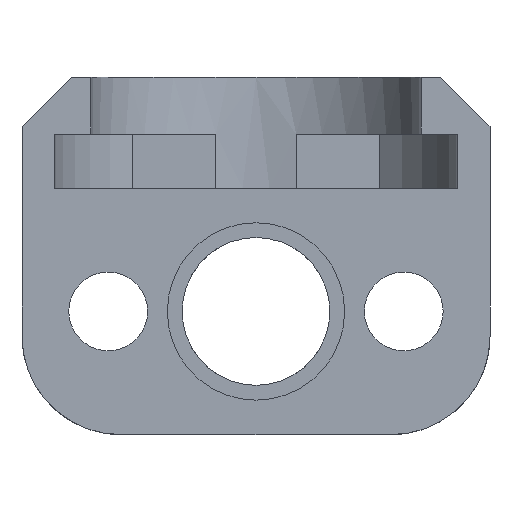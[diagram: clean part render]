
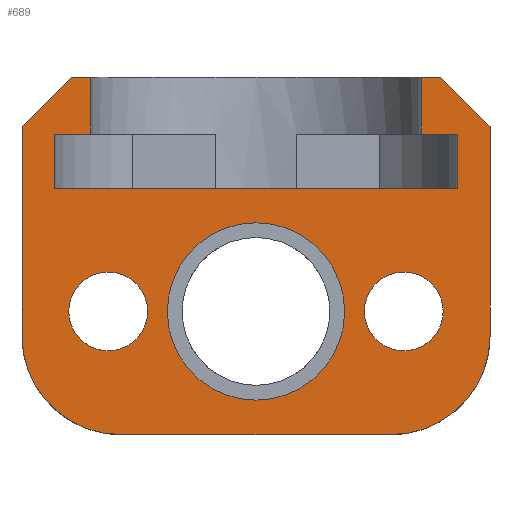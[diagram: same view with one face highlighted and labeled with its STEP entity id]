
A CAD part, front view. The second image highlights one B-rep face of the part: STEP entity #689.
In plain terms, the highlighted planar face has unit normal (0, -1, 0).
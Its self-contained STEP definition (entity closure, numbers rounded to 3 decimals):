
#24=FACE_BOUND('',#123,.T.);
#25=FACE_BOUND('',#124,.T.);
#26=FACE_BOUND('',#125,.T.);
#54=CIRCLE('',#748,4.);
#55=CIRCLE('',#751,4.);
#56=CIRCLE('',#752,1.6);
#57=CIRCLE('',#753,1.6);
#58=CIRCLE('',#754,3.6);
#86=FACE_OUTER_BOUND('',#122,.T.);
#122=EDGE_LOOP('',(#479,#480,#481,#482,#483,#484,#485,#486,#487,#488,#489,
#490,#491,#492,#493,#494));
#123=EDGE_LOOP('',(#495));
#124=EDGE_LOOP('',(#496));
#125=EDGE_LOOP('',(#497));
#160=LINE('',#1030,#220);
#168=LINE('',#1070,#228);
#169=LINE('',#1072,#229);
#170=LINE('',#1074,#230);
#171=LINE('',#1076,#231);
#172=LINE('',#1078,#232);
#173=LINE('',#1080,#233);
#174=LINE('',#1082,#234);
#175=LINE('',#1084,#235);
#176=LINE('',#1086,#236);
#177=LINE('',#1088,#237);
#178=LINE('',#1090,#238);
#179=LINE('',#1092,#239);
#180=LINE('',#1093,#240);
#220=VECTOR('',#816,10.);
#228=VECTOR('',#856,10.);
#229=VECTOR('',#857,10.);
#230=VECTOR('',#858,10.);
#231=VECTOR('',#859,10.);
#232=VECTOR('',#860,10.);
#233=VECTOR('',#861,10.);
#234=VECTOR('',#862,10.);
#235=VECTOR('',#863,10.);
#236=VECTOR('',#864,10.);
#237=VECTOR('',#865,10.);
#238=VECTOR('',#866,10.);
#239=VECTOR('',#867,10.);
#240=VECTOR('',#868,10.);
#280=VERTEX_POINT('',#1027);
#281=VERTEX_POINT('',#1029);
#294=VERTEX_POINT('',#1061);
#296=VERTEX_POINT('',#1067);
#297=VERTEX_POINT('',#1069);
#298=VERTEX_POINT('',#1071);
#299=VERTEX_POINT('',#1073);
#300=VERTEX_POINT('',#1075);
#301=VERTEX_POINT('',#1077);
#302=VERTEX_POINT('',#1079);
#303=VERTEX_POINT('',#1081);
#304=VERTEX_POINT('',#1083);
#305=VERTEX_POINT('',#1085);
#306=VERTEX_POINT('',#1087);
#307=VERTEX_POINT('',#1089);
#308=VERTEX_POINT('',#1091);
#309=VERTEX_POINT('',#1094);
#310=VERTEX_POINT('',#1096);
#311=VERTEX_POINT('',#1098);
#350=EDGE_CURVE('',#280,#281,#160,.T.);
#366=EDGE_CURVE('',#281,#294,#54,.T.);
#369=EDGE_CURVE('',#296,#280,#55,.T.);
#370=EDGE_CURVE('',#296,#297,#168,.T.);
#371=EDGE_CURVE('',#297,#298,#169,.T.);
#372=EDGE_CURVE('',#298,#299,#170,.T.);
#373=EDGE_CURVE('',#299,#300,#171,.T.);
#374=EDGE_CURVE('',#300,#301,#172,.T.);
#375=EDGE_CURVE('',#301,#302,#173,.T.);
#376=EDGE_CURVE('',#302,#303,#174,.T.);
#377=EDGE_CURVE('',#303,#304,#175,.T.);
#378=EDGE_CURVE('',#304,#305,#176,.T.);
#379=EDGE_CURVE('',#305,#306,#177,.T.);
#380=EDGE_CURVE('',#307,#306,#178,.T.);
#381=EDGE_CURVE('',#307,#308,#179,.T.);
#382=EDGE_CURVE('',#308,#294,#180,.F.);
#383=EDGE_CURVE('',#309,#309,#56,.T.);
#384=EDGE_CURVE('',#310,#310,#57,.T.);
#385=EDGE_CURVE('',#311,#311,#58,.T.);
#479=ORIENTED_EDGE('',*,*,#366,.F.);
#480=ORIENTED_EDGE('',*,*,#350,.F.);
#481=ORIENTED_EDGE('',*,*,#369,.F.);
#482=ORIENTED_EDGE('',*,*,#370,.T.);
#483=ORIENTED_EDGE('',*,*,#371,.T.);
#484=ORIENTED_EDGE('',*,*,#372,.T.);
#485=ORIENTED_EDGE('',*,*,#373,.T.);
#486=ORIENTED_EDGE('',*,*,#374,.T.);
#487=ORIENTED_EDGE('',*,*,#375,.T.);
#488=ORIENTED_EDGE('',*,*,#376,.T.);
#489=ORIENTED_EDGE('',*,*,#377,.T.);
#490=ORIENTED_EDGE('',*,*,#378,.T.);
#491=ORIENTED_EDGE('',*,*,#379,.T.);
#492=ORIENTED_EDGE('',*,*,#380,.F.);
#493=ORIENTED_EDGE('',*,*,#381,.T.);
#494=ORIENTED_EDGE('',*,*,#382,.T.);
#495=ORIENTED_EDGE('',*,*,#383,.T.);
#496=ORIENTED_EDGE('',*,*,#384,.F.);
#497=ORIENTED_EDGE('',*,*,#385,.F.);
#669=PLANE('',#750);
#689=ADVANCED_FACE('',(#86,#24,#25,#26),#669,.T.);
#748=AXIS2_PLACEMENT_3D('',#1062,#847,#848);
#750=AXIS2_PLACEMENT_3D('',#1066,#852,#853);
#751=AXIS2_PLACEMENT_3D('',#1068,#854,#855);
#752=AXIS2_PLACEMENT_3D('',#1095,#869,#870);
#753=AXIS2_PLACEMENT_3D('',#1097,#871,#872);
#754=AXIS2_PLACEMENT_3D('',#1099,#873,#874);
#816=DIRECTION('',(-1.,0.,0.));
#847=DIRECTION('center_axis',(0.,1.,0.));
#848=DIRECTION('ref_axis',(-1.,0.,0.));
#852=DIRECTION('center_axis',(0.,-1.,0.));
#853=DIRECTION('ref_axis',(0.,0.,-1.));
#854=DIRECTION('center_axis',(0.,1.,0.));
#855=DIRECTION('ref_axis',(0.,0.,-1.));
#856=DIRECTION('',(0.,0.,1.));
#857=DIRECTION('',(-0.707,0.,0.707));
#858=DIRECTION('',(-1.,0.,0.));
#859=DIRECTION('',(0.,0.,-1.));
#860=DIRECTION('',(1.,0.,0.));
#861=DIRECTION('',(0.,0.,-1.));
#862=DIRECTION('',(-1.,0.,0.));
#863=DIRECTION('',(0.,0.,1.));
#864=DIRECTION('',(1.,0.,0.));
#865=DIRECTION('',(0.,0.,1.));
#866=DIRECTION('',(1.,0.,0.));
#867=DIRECTION('',(-0.707,0.,-0.707));
#868=DIRECTION('',(0.,0.,1.));
#869=DIRECTION('center_axis',(0.,1.,0.));
#870=DIRECTION('ref_axis',(1.,0.,0.));
#871=DIRECTION('center_axis',(0.,-1.,0.));
#872=DIRECTION('ref_axis',(-1.,0.,0.));
#873=DIRECTION('center_axis',(0.,-1.,0.));
#874=DIRECTION('ref_axis',(-1.,0.,0.));
#1027=CARTESIAN_POINT('',(5.5,0.,-102.));
#1029=CARTESIAN_POINT('',(-5.5,0.,-102.));
#1030=CARTESIAN_POINT('',(0.,0.,-102.));
#1061=CARTESIAN_POINT('',(-9.5,0.,-98.));
#1062=CARTESIAN_POINT('Origin',(-5.5,0.,
-98.));
#1066=CARTESIAN_POINT('Origin',(0.,0.,
-97.5));
#1067=CARTESIAN_POINT('',(9.5,0.,-98.));
#1068=CARTESIAN_POINT('Origin',(5.5,0.,-98.));
#1069=CARTESIAN_POINT('',(9.5,0.,-89.5));
#1070=CARTESIAN_POINT('',(9.5,0.,-95.));
#1071=CARTESIAN_POINT('',(7.5,0.,-87.5));
#1072=CARTESIAN_POINT('',(8.625,0.,-88.625));
#1073=CARTESIAN_POINT('',(6.7,0.,-87.5));
#1074=CARTESIAN_POINT('',(0.,0.,-87.5));
#1075=CARTESIAN_POINT('',(6.7,0.,-89.8));
#1076=CARTESIAN_POINT('',(6.7,0.,-90.));
#1077=CARTESIAN_POINT('',(8.2,0.,-89.8));
#1078=CARTESIAN_POINT('',(0.,0.,-89.8));
#1079=CARTESIAN_POINT('',(8.2,0.,-92.));
#1080=CARTESIAN_POINT('',(8.2,0.,-95.));
#1081=CARTESIAN_POINT('',(-8.2,0.,-92.));
#1082=CARTESIAN_POINT('',(0.,0.,-92.));
#1083=CARTESIAN_POINT('',(-8.2,0.,-89.8));
#1084=CARTESIAN_POINT('',(-8.2,0.,-95.));
#1085=CARTESIAN_POINT('',(-6.7,0.,-89.8));
#1086=CARTESIAN_POINT('',(0.,0.,-89.8));
#1087=CARTESIAN_POINT('',(-6.7,0.,-87.5));
#1088=CARTESIAN_POINT('',(-6.7,0.,-87.5));
#1089=CARTESIAN_POINT('',(-7.5,0.,-87.5));
#1090=CARTESIAN_POINT('',(-7.5,0.,-87.5));
#1091=CARTESIAN_POINT('',(-9.5,0.,-89.5));
#1092=CARTESIAN_POINT('',(-8.625,0.,-88.625));
#1093=CARTESIAN_POINT('',(-9.5,0.,-95.));
#1094=CARTESIAN_POINT('',(-7.6,0.,-97.));
#1095=CARTESIAN_POINT('Origin',(-6.,0.,
-97.));
#1096=CARTESIAN_POINT('',(7.6,0.,-97.));
#1097=CARTESIAN_POINT('Origin',(6.,0.,-97.));
#1098=CARTESIAN_POINT('',(3.6,0.,-97.));
#1099=CARTESIAN_POINT('Origin',(0.,0.,
-97.));
